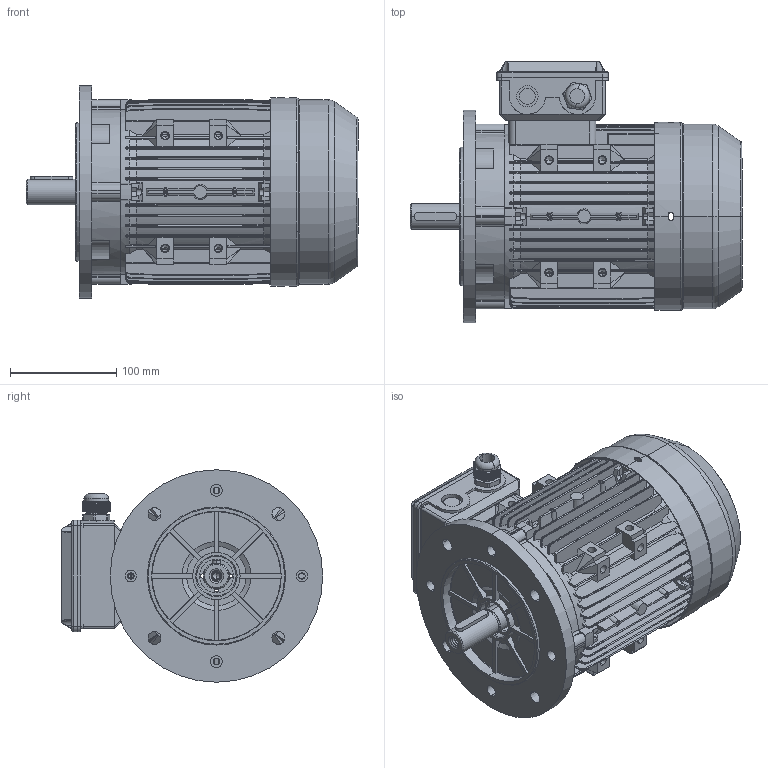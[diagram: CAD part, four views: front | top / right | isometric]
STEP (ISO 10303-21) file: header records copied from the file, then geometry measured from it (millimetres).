
FILE_DESCRIPTION (( 'STEP AP203' ), '1' );
FILE_NAME ('ME90 assembly B5.STEP', '2013-01-11T11:20:37', ( '' ), ( '' ), 'SwSTEP 2.0', 'SolidWorks 2010', '' );
FILE_SCHEMA (( 'CONFIG_CONTROL_DESIGN' ));
Length unit declared in the file: millimetre
Products named in the file (8): MS100諉盄碟釱; ME90傷裔B5; ME90 assembly  B5; ME90儂褲_L; ME90瑞欶_082; M90-Shaft drive end; MS100諉盄碟裔; M20 cable gland
Assembly tree (7 placements, depth 2):
  ME90 assembly  B5
    M90-Shaft drive end
    MS100諉盄碟釱
    MS100諉盄碟裔
    ME90瑞欶_082
    ME90儂褲_L
    M20 cable gland
    ME90傷裔B5
Bounding box: 312.5 x 246 x 200 mm (x, y, z)
Volume: 1018999.5 mm3; surface area: 637253.1 mm2
Topology: 7 solids, 7 shells, 3131 faces, 8508 edges, 5447 vertices
Faces by surface type: plane 1457, cylinder 958, bspline 414, cone 222, torus 80
Entity records: 173908 total; most frequent: CARTESIAN_POINT 96753, ORIENTED_EDGE 16916, DIRECTION 14434, EDGE_CURVE 8458, VERTEX_POINT 5447, AXIS2_PLACEMENT_3D 4924, VECTOR 4586, LINE 4586
